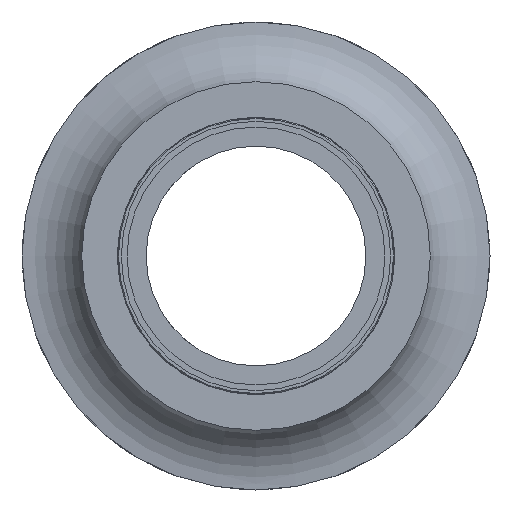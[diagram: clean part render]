
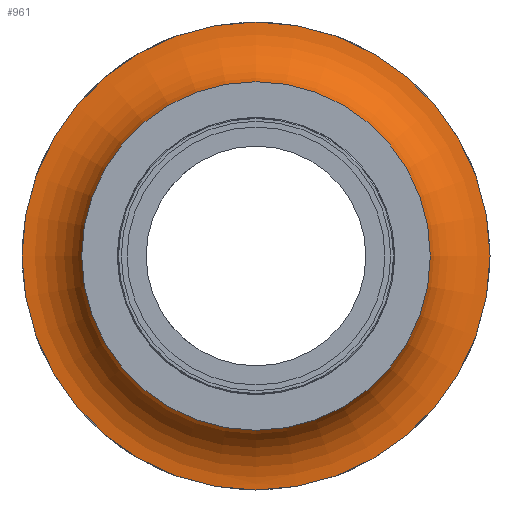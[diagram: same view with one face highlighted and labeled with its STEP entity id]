
A CAD part, front view. The second image highlights one B-rep face of the part: STEP entity #961.
In plain terms, the highlighted toroidal (fillet/blend) face has major radius 49 mm and minor radius 13.5 mm.
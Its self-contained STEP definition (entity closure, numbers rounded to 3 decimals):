
#360 = CIRCLE ( 'NONE', #4163, 35.5 ) ;
#454 = EDGE_CURVE ( 'NONE', #477, #477, #3862, .T. ) ;
#477 = VERTEX_POINT ( 'NONE', #2787 ) ;
#505 = DIRECTION ( 'NONE',  ( 0., -1., 0. ) ) ;
#563 = CARTESIAN_POINT ( 'NONE',  ( 0., -28.5, 0. ) ) ;
#670 = CARTESIAN_POINT ( 'NONE',  ( 0., -28.5, 0. ) ) ;
#954 = DIRECTION ( 'NONE',  ( 0., 1., 0. ) ) ;
#961 = ADVANCED_FACE ( 'NONE', ( #4271, #2369 ), #966, .F. ) ;
#966 = TOROIDAL_SURFACE ( 'NONE', #1927, 49., 13.5 ) ;
#1082 = CARTESIAN_POINT ( 'NONE',  ( 0., -28.5, -35.5 ) ) ;
#1840 = ORIENTED_EDGE ( 'NONE', *, *, #4270, .F. ) ;
#1845 = DIRECTION ( 'NONE',  ( 0., 0., -1. ) ) ;
#1927 = AXIS2_PLACEMENT_3D ( 'NONE', #670, #2342, #3972 ) ;
#2271 = EDGE_LOOP ( 'NONE', ( #2351 ) ) ;
#2302 = DIRECTION ( 'NONE',  ( 0., 0., 1. ) ) ;
#2342 = DIRECTION ( 'NONE',  ( 0., -1., 0. ) ) ;
#2351 = ORIENTED_EDGE ( 'NONE', *, *, #454, .F. ) ;
#2369 = FACE_OUTER_BOUND ( 'NONE', #2271, .T. ) ;
#2384 = VERTEX_POINT ( 'NONE', #1082 ) ;
#2787 = CARTESIAN_POINT ( 'NONE',  ( 0., -15., 49. ) ) ;
#2935 = CARTESIAN_POINT ( 'NONE',  ( 0., -15., 0. ) ) ;
#3233 = AXIS2_PLACEMENT_3D ( 'NONE', #2935, #954, #2302 ) ;
#3862 = CIRCLE ( 'NONE', #3233, 49. ) ;
#3866 = EDGE_LOOP ( 'NONE', ( #1840 ) ) ;
#3972 = DIRECTION ( 'NONE',  ( 0., 0., -1. ) ) ;
#4163 = AXIS2_PLACEMENT_3D ( 'NONE', #563, #505, #1845 ) ;
#4270 = EDGE_CURVE ( 'NONE', #2384, #2384, #360, .T. ) ;
#4271 = FACE_OUTER_BOUND ( 'NONE', #3866, .T. ) ;
